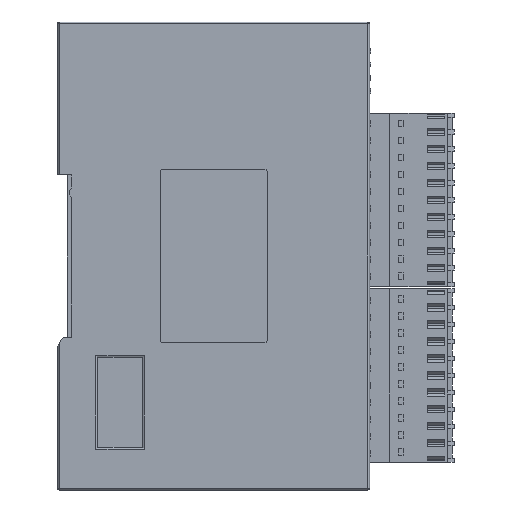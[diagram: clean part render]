
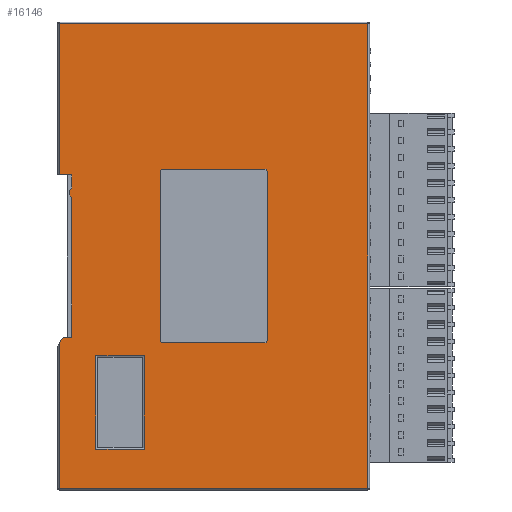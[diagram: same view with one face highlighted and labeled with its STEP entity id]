
A CAD part, left-side view. The second image highlights one B-rep face of the part: STEP entity #16146.
In plain terms, the highlighted planar face has unit normal (-1, 0, 0).
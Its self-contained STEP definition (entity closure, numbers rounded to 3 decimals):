
#16146=ADVANCED_FACE('',(#46845,#46847,#46849),#46851,.T.);
#46845=FACE_BOUND('',#46846,.T.);
#46846=EDGE_LOOP('',(#67114,#67115,#67116,#67117,#67118,#67119,#67120,#67121,#67122,
#67123,#67124));
#46847=FACE_BOUND('',#46848,.T.);
#46848=EDGE_LOOP('',(#67125,#67126,#67127,#67128,#67129,#67130,#67131,#67132));
#46849=FACE_BOUND('',#46850,.T.);
#46850=EDGE_LOOP('',(#67133,#67134,#67135,#67136));
#46851=PLANE('',#46852);
#46852=AXIS2_PLACEMENT_3D('',#46853,#46854,#46855);
#46853=CARTESIAN_POINT('',(-345.903,-44.348,173.566));
#46854=DIRECTION('',(-1.,0.,0.));
#46855=DIRECTION('',(0.,0.,1.));
#67114=ORIENTED_EDGE('',*,*,#79022,.F.);
#67115=ORIENTED_EDGE('',*,*,#79023,.F.);
#67116=ORIENTED_EDGE('',*,*,#79024,.T.);
#67117=ORIENTED_EDGE('',*,*,#79025,.T.);
#67118=ORIENTED_EDGE('',*,*,#79026,.T.);
#67119=ORIENTED_EDGE('',*,*,#79027,.T.);
#67120=ORIENTED_EDGE('',*,*,#79028,.T.);
#67121=ORIENTED_EDGE('',*,*,#79029,.F.);
#67122=ORIENTED_EDGE('',*,*,#79030,.F.);
#67123=ORIENTED_EDGE('',*,*,#79031,.F.);
#67124=ORIENTED_EDGE('',*,*,#78742,.F.);
#67125=ORIENTED_EDGE('',*,*,#79032,.F.);
#67126=ORIENTED_EDGE('',*,*,#79033,.F.);
#67127=ORIENTED_EDGE('',*,*,#79034,.F.);
#67128=ORIENTED_EDGE('',*,*,#79035,.F.);
#67129=ORIENTED_EDGE('',*,*,#79036,.F.);
#67130=ORIENTED_EDGE('',*,*,#79037,.F.);
#67131=ORIENTED_EDGE('',*,*,#79038,.F.);
#67132=ORIENTED_EDGE('',*,*,#79039,.F.);
#67133=ORIENTED_EDGE('',*,*,#79040,.F.);
#67134=ORIENTED_EDGE('',*,*,#79041,.F.);
#67135=ORIENTED_EDGE('',*,*,#79042,.F.);
#67136=ORIENTED_EDGE('',*,*,#79043,.F.);
#78742=EDGE_CURVE('',#89928,#89926,#89930,.T.);
#79022=EDGE_CURVE('',#90467,#89928,#90468,.T.);
#79023=EDGE_CURVE('',#90469,#90467,#90470,.T.);
#79024=EDGE_CURVE('',#90469,#90471,#90472,.T.);
#79025=EDGE_CURVE('',#90471,#90473,#90474,.T.);
#79026=EDGE_CURVE('',#90473,#90475,#90476,.T.);
#79027=EDGE_CURVE('',#90475,#90477,#90478,.T.);
#79028=EDGE_CURVE('',#90477,#90479,#90480,.T.);
#79029=EDGE_CURVE('',#90481,#90479,#90482,.T.);
#79030=EDGE_CURVE('',#90483,#90481,#90484,.T.);
#79031=EDGE_CURVE('',#89926,#90483,#90485,.T.);
#79032=EDGE_CURVE('',#90486,#90487,#90488,.T.);
#79033=EDGE_CURVE('',#90489,#90486,#90490,.T.);
#79034=EDGE_CURVE('',#90491,#90489,#90492,.T.);
#79035=EDGE_CURVE('',#90493,#90491,#90494,.T.);
#79036=EDGE_CURVE('',#90495,#90493,#90496,.T.);
#79037=EDGE_CURVE('',#90497,#90495,#90498,.T.);
#79038=EDGE_CURVE('',#90499,#90497,#90500,.T.);
#79039=EDGE_CURVE('',#90487,#90499,#90501,.T.);
#79040=EDGE_CURVE('',#90502,#90503,#90504,.T.);
#79041=EDGE_CURVE('',#90505,#90502,#90506,.T.);
#79042=EDGE_CURVE('',#90507,#90505,#90508,.T.);
#79043=EDGE_CURVE('',#90503,#90507,#90509,.T.);
#89926=VERTEX_POINT('',#211534);
#89928=VERTEX_POINT('',#211539);
#89930=LINE('',#211544,#211545);
#90467=VERTEX_POINT('',#212762);
#90468=LINE('',#212763,#212764);
#90469=VERTEX_POINT('',#212766);
#90470=LINE('',#212767,#212768);
#90471=VERTEX_POINT('',#212770);
#90472=LINE('',#212771,#212772);
#90473=VERTEX_POINT('',#212774);
#90474=LINE('',#212775,#212776);
#90475=VERTEX_POINT('',#212778);
#90476=CIRCLE('',#212779,2.);
#90477=VERTEX_POINT('',#212783);
#90478=LINE('',#212784,#212785);
#90479=VERTEX_POINT('',#212787);
#90480=LINE('',#212788,#212789);
#90481=VERTEX_POINT('',#212791);
#90482=LINE('',#212792,#212793);
#90483=VERTEX_POINT('',#212795);
#90484=LINE('',#212796,#212797);
#90485=LINE('',#212799,#212800);
#90486=VERTEX_POINT('',#212802);
#90487=VERTEX_POINT('',#212803);
#90488=LINE('',#212804,#212805);
#90489=VERTEX_POINT('',#212807);
#90490=CIRCLE('',#212808,0.5);
#90491=VERTEX_POINT('',#212812);
#90492=LINE('',#212813,#212814);
#90493=VERTEX_POINT('',#212816);
#90494=CIRCLE('',#212817,0.5);
#90495=VERTEX_POINT('',#212821);
#90496=LINE('',#212822,#212823);
#90497=VERTEX_POINT('',#212825);
#90498=CIRCLE('',#212826,0.5);
#90499=VERTEX_POINT('',#212830);
#90500=LINE('',#212831,#212832);
#90501=CIRCLE('',#212834,0.5);
#90502=VERTEX_POINT('',#212838);
#90503=VERTEX_POINT('',#212839);
#90504=LINE('',#212840,#212841);
#90505=VERTEX_POINT('',#212843);
#90506=LINE('',#212844,#212845);
#90507=VERTEX_POINT('',#212847);
#90508=LINE('',#212848,#212849);
#90509=LINE('',#212851,#212852);
#211534=CARTESIAN_POINT('',(-345.903,-120.48,183.998));
#211539=CARTESIAN_POINT('',(-345.903,-120.48,288.198));
#211544=CARTESIAN_POINT('',(-345.903,-120.48,288.198));
#211545=VECTOR('',#211546,1.);
#211546=DIRECTION('',(0.,0.,-1.));
#212762=CARTESIAN_POINT('',(-345.903,-51.28,288.198));
#212763=CARTESIAN_POINT('',(-345.903,-51.28,288.198));
#212764=VECTOR('',#212765,1.);
#212765=DIRECTION('',(0.,-1.,0.));
#212766=CARTESIAN_POINT('',(-345.903,-51.28,254.298));
#212767=CARTESIAN_POINT('',(-345.903,-51.28,254.298));
#212768=VECTOR('',#212769,1.);
#212769=DIRECTION('',(0.,0.,1.));
#212770=CARTESIAN_POINT('',(-345.903,-54.08,254.298));
#212771=CARTESIAN_POINT('',(-345.903,-51.28,254.298));
#212772=VECTOR('',#212773,1.);
#212773=DIRECTION('',(0.,-1.,0.));
#212774=CARTESIAN_POINT('',(-345.903,-54.08,251.62));
#212775=CARTESIAN_POINT('',(-345.903,-54.08,254.298));
#212776=VECTOR('',#212777,1.);
#212777=DIRECTION('',(0.,0.,-1.));
#212778=CARTESIAN_POINT('',(-345.903,-54.08,248.975));
#212779=AXIS2_PLACEMENT_3D('',#212780,#212781,#212782);
#212780=CARTESIAN_POINT('',(-345.903,-55.58,250.298));
#212781=DIRECTION('',(-1.,0.,0.));
#212782=DIRECTION('',(0.,0.75,0.661));
#212783=CARTESIAN_POINT('',(-345.903,-54.08,217.898));
#212784=CARTESIAN_POINT('',(-345.903,-54.08,248.975));
#212785=VECTOR('',#212786,1.);
#212786=DIRECTION('',(0.,0.,-1.));
#212787=CARTESIAN_POINT('',(-345.903,-52.08,217.898));
#212788=CARTESIAN_POINT('',(-345.903,-54.08,217.898));
#212789=VECTOR('',#212790,1.);
#212790=DIRECTION('',(0.,1.,0.));
#212791=CARTESIAN_POINT('',(-345.903,-51.28,216.564));
#212792=CARTESIAN_POINT('',(-345.903,-51.28,216.564));
#212793=VECTOR('',#212794,1.);
#212794=DIRECTION('',(0.,-0.515,0.857));
#212795=CARTESIAN_POINT('',(-345.903,-51.28,183.998));
#212796=CARTESIAN_POINT('',(-345.903,-51.28,183.998));
#212797=VECTOR('',#212798,1.);
#212798=DIRECTION('',(0.,0.,1.));
#212799=CARTESIAN_POINT('',(-345.903,-120.48,183.998));
#212800=VECTOR('',#212801,1.);
#212801=DIRECTION('',(0.,1.,0.));
#212802=CARTESIAN_POINT('',(-345.903,-97.38,255.598));
#212803=CARTESIAN_POINT('',(-345.903,-74.38,255.598));
#212804=CARTESIAN_POINT('',(-345.903,-97.38,255.598));
#212805=VECTOR('',#212806,1.);
#212806=DIRECTION('',(0.,1.,0.));
#212807=CARTESIAN_POINT('',(-345.903,-97.88,255.098));
#212808=AXIS2_PLACEMENT_3D('',#212809,#212810,#212811);
#212809=CARTESIAN_POINT('',(-345.903,-97.38,255.098));
#212810=DIRECTION('',(-1.,0.,0.));
#212811=DIRECTION('',(0.,-1.,0.));
#212812=CARTESIAN_POINT('',(-345.903,-97.88,217.098));
#212813=CARTESIAN_POINT('',(-345.903,-97.88,217.098));
#212814=VECTOR('',#212815,1.);
#212815=DIRECTION('',(0.,0.,1.));
#212816=CARTESIAN_POINT('',(-345.903,-97.38,216.598));
#212817=AXIS2_PLACEMENT_3D('',#212818,#212819,#212820);
#212818=CARTESIAN_POINT('',(-345.903,-97.38,217.098));
#212819=DIRECTION('',(-1.,0.,0.));
#212820=DIRECTION('',(0.,0.,-1.));
#212821=CARTESIAN_POINT('',(-345.903,-74.38,216.598));
#212822=CARTESIAN_POINT('',(-345.903,-74.38,216.598));
#212823=VECTOR('',#212824,1.);
#212824=DIRECTION('',(0.,-1.,0.));
#212825=CARTESIAN_POINT('',(-345.903,-73.88,217.098));
#212826=AXIS2_PLACEMENT_3D('',#212827,#212828,#212829);
#212827=CARTESIAN_POINT('',(-345.903,-74.38,217.098));
#212828=DIRECTION('',(-1.,0.,0.));
#212829=DIRECTION('',(0.,1.,0.));
#212830=CARTESIAN_POINT('',(-345.903,-73.88,255.098));
#212831=CARTESIAN_POINT('',(-345.903,-73.88,255.098));
#212832=VECTOR('',#212833,1.);
#212833=DIRECTION('',(0.,0.,-1.));
#212834=AXIS2_PLACEMENT_3D('',#212835,#212836,#212837);
#212835=CARTESIAN_POINT('',(-345.903,-74.38,255.098));
#212836=DIRECTION('',(-1.,0.,0.));
#212837=DIRECTION('',(0.,0.,1.));
#212838=CARTESIAN_POINT('',(-345.903,-70.34,192.748));
#212839=CARTESIAN_POINT('',(-345.903,-70.34,213.748));
#212840=CARTESIAN_POINT('',(-345.903,-70.34,192.748));
#212841=VECTOR('',#212842,1.);
#212842=DIRECTION('',(0.,0.,1.));
#212843=CARTESIAN_POINT('',(-345.903,-59.45,192.748));
#212844=CARTESIAN_POINT('',(-345.903,-59.45,192.748));
#212845=VECTOR('',#212846,1.);
#212846=DIRECTION('',(0.,-1.,0.));
#212847=CARTESIAN_POINT('',(-345.903,-59.45,213.748));
#212848=CARTESIAN_POINT('',(-345.903,-59.45,213.748));
#212849=VECTOR('',#212850,1.);
#212850=DIRECTION('',(0.,0.,-1.));
#212851=CARTESIAN_POINT('',(-345.903,-70.34,213.748));
#212852=VECTOR('',#212853,1.);
#212853=DIRECTION('',(0.,1.,0.));
